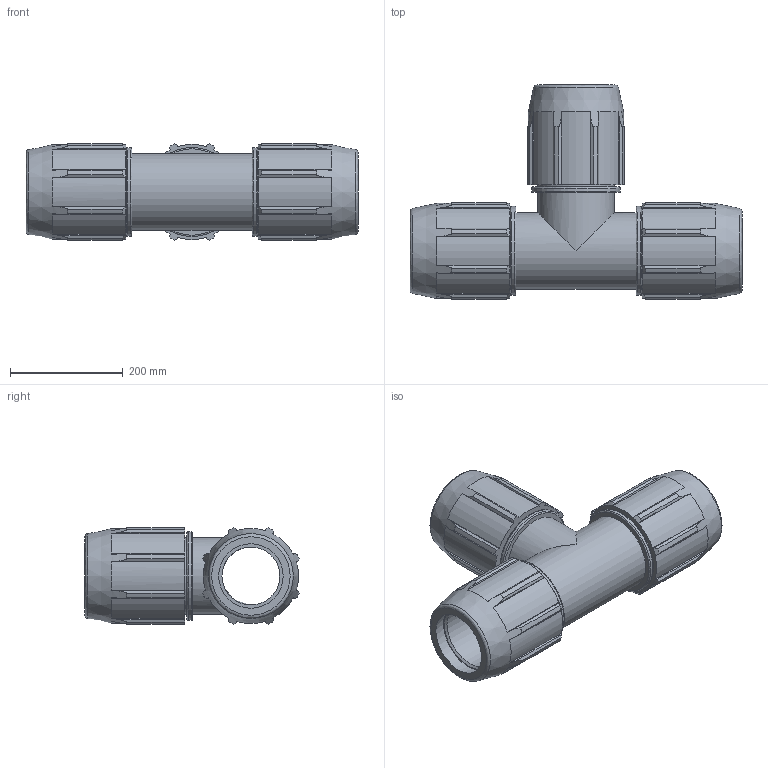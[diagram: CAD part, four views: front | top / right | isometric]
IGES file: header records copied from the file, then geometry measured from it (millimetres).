
Global section: file name: 0704M0400.ipt; native system: Autodesk Inventor 2019; preprocessor: unknown; author: KIM; date: 20210826.124549; units: inch
Bounding box: 588.01 x 379.08 x 170.4 mm (x, y, z)
Volume: 7905428.2 mm3; surface area: 786105.2 mm2
Topology: 1 solids, 1 shells, 233 faces, 669 edges, 453 vertices
Faces by surface type: plane 114, cylinder 56, cone 43, revolution 20
Full cylindrical faces by diameter (mm): 135.827 x5, 157.559 x3
